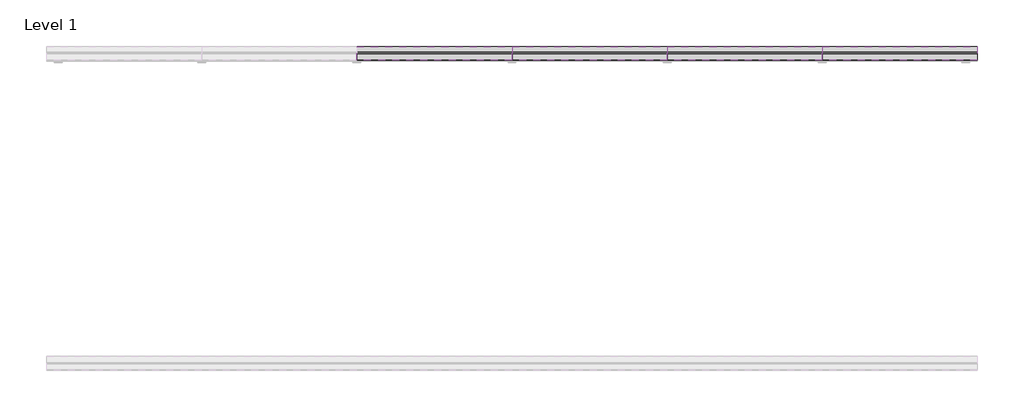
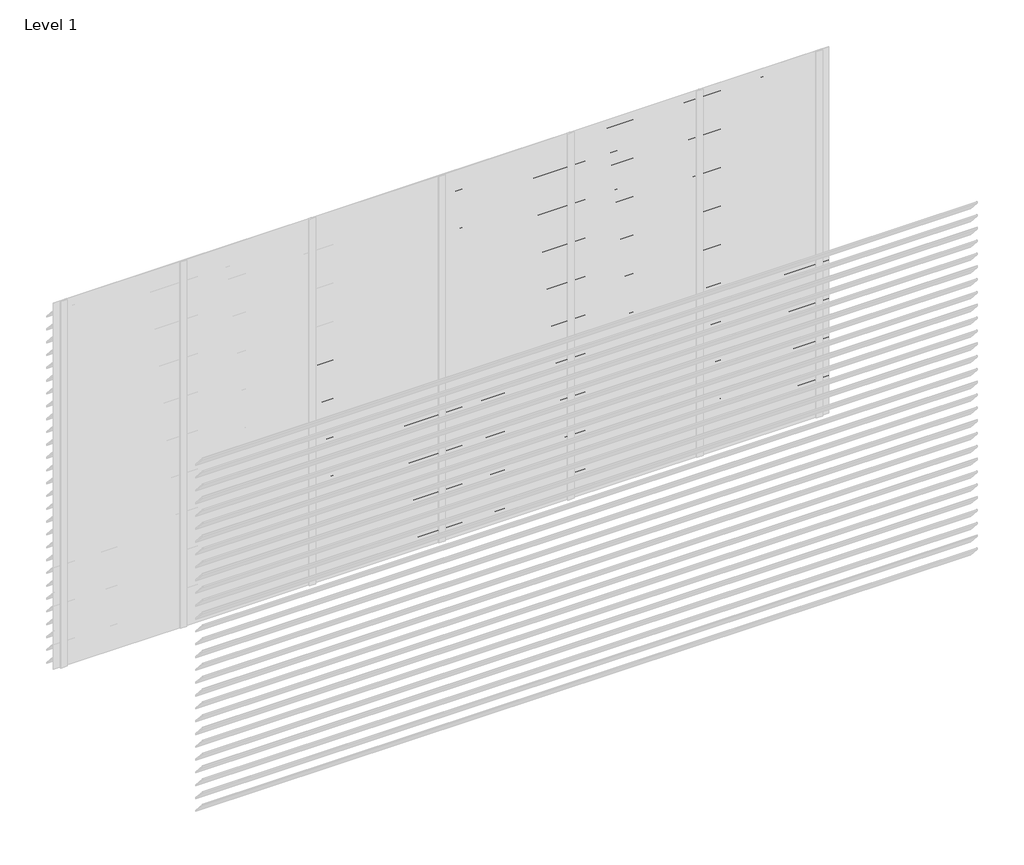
# One storey, part 9 of 9: 101 proxies.
"""IFC4 building model written with IfcOpenShell, lengths in millimetres."""

from ifc_helpers import new_model, si_unit, frame, origin, place, context, project, spatial, polyline, outline, extrude, element, save

model = new_model("IFC4")

# Units and contexts
model_context = context("Model", 3, world=origin())
ifc_project = project(units=[si_unit("LENGTHUNIT", "METRE", prefix="MILLI")], contexts=[model_context])

# Site, building, storey
site = spatial("IfcSite", under=ifc_project)
building = spatial("IfcBuilding", under=site)
storey = spatial("IfcBuildingStorey", under=building, Name="Level 1", Elevation=0.0)

# Proxies
placement = place(None, origin())
element("IfcBuildingElementProxy", 1, Name="Wall Sweeps", at=placement, inside=storey, context=model_context, shape_type="SweptSolid", body=[
    extrude(outline(polyline([(5.0, 1785.0), (5.0, 1780.6232888), (92.0, 1684.0), (92.0, 1674.0), (3.0, 1772.8445138), (3.0, 1785.0), (5.0, 1785.0)])), frame((2000.0, 0.0, 0.0), z_axis=(1.0, 0.0, 0.0), x_axis=(0.0, 1.0, 0.0)), (0.0, 0.0, 1.0), 1000.0),
])
element("IfcBuildingElementProxy", 2, Name="Wall Sweeps", at=placement, inside=storey, context=model_context, shape_type="SweptSolid", body=[
    extrude(outline(polyline([(5.0, 1680.0), (5.0, 1675.6232888), (92.0, 1579.0), (92.0, 1569.0), (3.0, 1667.8445138), (3.0, 1680.0), (5.0, 1680.0)])), frame((2000.0, 0.0, 0.0), z_axis=(1.0, 0.0, 0.0), x_axis=(0.0, 1.0, 0.0)), (0.0, 0.0, 1.0), 1000.0),
])
element("IfcBuildingElementProxy", 3, Name="Wall Sweeps", at=placement, inside=storey, context=model_context, shape_type="SweptSolid", body=[
    extrude(outline(polyline([(5.0, 1575.0), (5.0, 1570.6232888), (92.0, 1474.0), (92.0, 1464.0), (3.0, 1562.8445138), (3.0, 1575.0), (5.0, 1575.0)])), frame((2000.0, 0.0, 0.0), z_axis=(1.0, 0.0, 0.0), x_axis=(0.0, 1.0, 0.0)), (0.0, 0.0, 1.0), 1000.0),
])
element("IfcBuildingElementProxy", 4, Name="Wall Sweeps", at=placement, inside=storey, context=model_context, shape_type="SweptSolid", body=[
    extrude(outline(polyline([(5.0, 1470.0), (5.0, 1465.6232888), (92.0, 1369.0), (92.0, 1359.0), (3.0, 1457.8445138), (3.0, 1470.0), (5.0, 1470.0)])), frame((2000.0, 0.0, 0.0), z_axis=(1.0, 0.0, 0.0), x_axis=(0.0, 1.0, 0.0)), (0.0, 0.0, 1.0), 1000.0),
])
element("IfcBuildingElementProxy", 5, Name="Wall Sweeps", at=placement, inside=storey, context=model_context, shape_type="SweptSolid", body=[
    extrude(outline(polyline([(5.0, 1365.0), (5.0, 1360.6232888), (92.0, 1264.0), (92.0, 1254.0), (3.0, 1352.8445138), (3.0, 1365.0), (5.0, 1365.0)])), frame((2000.0, 0.0, 0.0), z_axis=(1.0, 0.0, 0.0), x_axis=(0.0, 1.0, 0.0)), (0.0, 0.0, 1.0), 1000.0),
])
element("IfcBuildingElementProxy", 6, Name="Wall Sweeps", at=placement, inside=storey, context=model_context, shape_type="SweptSolid", body=[
    extrude(outline(polyline([(5.0, 1260.0), (5.0, 1255.6232888), (92.0, 1159.0), (92.0, 1149.0), (3.0, 1247.8445138), (3.0, 1260.0), (5.0, 1260.0)])), frame((2000.0, 0.0, 0.0), z_axis=(1.0, 0.0, 0.0), x_axis=(0.0, 1.0, 0.0)), (0.0, 0.0, 1.0), 1000.0),
])
element("IfcBuildingElementProxy", 7, Name="Wall Sweeps", at=placement, inside=storey, context=model_context, shape_type="SweptSolid", body=[
    extrude(outline(polyline([(5.0, 1155.0), (5.0, 1150.6232888), (92.0, 1054.0), (92.0, 1044.0), (3.0, 1142.8445138), (3.0, 1155.0), (5.0, 1155.0)])), frame((2000.0, 0.0, 0.0), z_axis=(1.0, 0.0, 0.0), x_axis=(0.0, 1.0, 0.0)), (0.0, 0.0, 1.0), 1000.0),
])
element("IfcBuildingElementProxy", 8, Name="Wall Sweeps", at=placement, inside=storey, context=model_context, shape_type="SweptSolid", body=[
    extrude(outline(polyline([(5.0, 1050.0), (5.0, 1045.6232888), (92.0, 949.0), (92.0, 939.0), (3.0, 1037.8445138), (3.0, 1050.0), (5.0, 1050.0)])), frame((2000.0, 0.0, 0.0), z_axis=(1.0, 0.0, 0.0), x_axis=(0.0, 1.0, 0.0)), (0.0, 0.0, 1.0), 1000.0),
])
element("IfcBuildingElementProxy", 9, Name="Wall Sweeps", at=placement, inside=storey, context=model_context, shape_type="SweptSolid", body=[
    extrude(outline(polyline([(5.0, 945.0), (5.0, 940.6232888), (92.0, 844.0), (92.0, 834.0), (3.0, 932.8445138), (3.0, 945.0), (5.0, 945.0)])), frame((2000.0, 0.0, 0.0), z_axis=(1.0, 0.0, 0.0), x_axis=(0.0, 1.0, 0.0)), (0.0, 0.0, 1.0), 1000.0),
])
element("IfcBuildingElementProxy", 10, Name="Wall Sweeps", at=placement, inside=storey, context=model_context, shape_type="SweptSolid", body=[
    extrude(outline(polyline([(5.0, 840.0), (5.0, 835.6232888), (92.0, 739.0), (92.0, 729.0), (3.0, 827.8445138), (3.0, 840.0), (5.0, 840.0)])), frame((2000.0, 0.0, 0.0), z_axis=(1.0, 0.0, 0.0), x_axis=(0.0, 1.0, 0.0)), (0.0, 0.0, 1.0), 1000.0),
])
element("IfcBuildingElementProxy", 11, Name="Wall Sweeps", at=placement, inside=storey, context=model_context, shape_type="SweptSolid", body=[
    extrude(outline(polyline([(5.0, 735.0), (5.0, 730.6232888), (92.0, 634.0), (92.0, 624.0), (3.0, 722.8445138), (3.0, 735.0), (5.0, 735.0)])), frame((2000.0, 0.0, 0.0), z_axis=(1.0, 0.0, 0.0), x_axis=(0.0, 1.0, 0.0)), (0.0, 0.0, 1.0), 1000.0),
])
element("IfcBuildingElementProxy", 12, Name="Wall Sweeps", at=placement, inside=storey, context=model_context, shape_type="SweptSolid", body=[
    extrude(outline(polyline([(5.0, 630.0), (5.0, 625.6232888), (92.0, 529.0), (92.0, 519.0), (3.0, 617.8445138), (3.0, 630.0), (5.0, 630.0)])), frame((2000.0, 0.0, 0.0), z_axis=(1.0, 0.0, 0.0), x_axis=(0.0, 1.0, 0.0)), (0.0, 0.0, 1.0), 1000.0),
])
element("IfcBuildingElementProxy", 13, Name="Wall Sweeps", at=placement, inside=storey, context=model_context, shape_type="SweptSolid", body=[
    extrude(outline(polyline([(5.0, 525.0), (5.0, 520.6232888), (92.0, 424.0), (92.0, 414.0), (3.0, 512.8445138), (3.0, 525.0), (5.0, 525.0)])), frame((2000.0, 0.0, 0.0), z_axis=(1.0, 0.0, 0.0), x_axis=(0.0, 1.0, 0.0)), (0.0, 0.0, 1.0), 1000.0),
])
element("IfcBuildingElementProxy", 14, Name="Wall Sweeps", at=placement, inside=storey, context=model_context, shape_type="SweptSolid", body=[
    extrude(outline(polyline([(5.0, 420.0), (5.0, 415.6232888), (92.0, 319.0), (92.0, 309.0), (3.0, 407.8445138), (3.0, 420.0), (5.0, 420.0)])), frame((2000.0, 0.0, 0.0), z_axis=(1.0, 0.0, 0.0), x_axis=(0.0, 1.0, 0.0)), (0.0, 0.0, 1.0), 1000.0),
])
element("IfcBuildingElementProxy", 15, Name="Wall Sweeps", at=placement, inside=storey, context=model_context, shape_type="SweptSolid", body=[
    extrude(outline(polyline([(5.0, 315.0), (5.0, 310.6232888), (92.0, 214.0), (92.0, 204.0), (3.0, 302.8445138), (3.0, 315.0), (5.0, 315.0)])), frame((2000.0, 0.0, 0.0), z_axis=(1.0, 0.0, 0.0), x_axis=(0.0, 1.0, 0.0)), (0.0, 0.0, 1.0), 1000.0),
])
element("IfcBuildingElementProxy", 16, Name="Wall Sweeps", at=placement, inside=storey, context=model_context, shape_type="SweptSolid", body=[
    extrude(outline(polyline([(5.0, 210.0), (5.0, 205.6232888), (92.0, 109.0), (92.0, 99.0), (3.0, 197.8445138), (3.0, 210.0), (5.0, 210.0)])), frame((2000.0, 0.0, 0.0), z_axis=(1.0, 0.0, 0.0), x_axis=(0.0, 1.0, 0.0)), (0.0, 0.0, 1.0), 1000.0),
])
element("IfcBuildingElementProxy", 17, Name="Wall Sweeps", at=placement, inside=storey, context=model_context, shape_type="SweptSolid", body=[
    extrude(outline(polyline([(5.0, 105.0), (5.0, 100.6232888), (92.0, 4.0), (92.0, -6.0), (3.0, 92.8445138), (3.0, 105.0), (5.0, 105.0)])), frame((2000.0, 0.0, 0.0), z_axis=(1.0, 0.0, 0.0), x_axis=(0.0, 1.0, 0.0)), (0.0, 0.0, 1.0), 1000.0),
])
element("IfcBuildingElementProxy", 18, Name="Wall Sweeps", at=placement, inside=storey, context=model_context, shape_type="SweptSolid", body=[
    extrude(outline(polyline([(5.0, 2940.0), (5.0, 2935.6232888), (92.0, 2839.0), (92.0, 2829.0), (3.0, 2927.8445138), (3.0, 2940.0), (5.0, 2940.0)])), frame((3000.0, 0.0, 0.0), z_axis=(1.0, 0.0, 0.0), x_axis=(0.0, 1.0, 0.0)), (0.0, 0.0, 1.0), 1000.0),
])
element("IfcBuildingElementProxy", 19, Name="Wall Sweeps", at=placement, inside=storey, context=model_context, shape_type="SweptSolid", body=[
    extrude(outline(polyline([(5.0, 2835.0), (5.0, 2830.6232888), (92.0, 2734.0), (92.0, 2724.0), (3.0, 2822.8445138), (3.0, 2835.0), (5.0, 2835.0)])), frame((3000.0, 0.0, 0.0), z_axis=(1.0, 0.0, 0.0), x_axis=(0.0, 1.0, 0.0)), (0.0, 0.0, 1.0), 1000.0),
])
element("IfcBuildingElementProxy", 20, Name="Wall Sweeps", at=placement, inside=storey, context=model_context, shape_type="SweptSolid", body=[
    extrude(outline(polyline([(5.0, 2730.0), (5.0, 2725.6232888), (92.0, 2629.0), (92.0, 2619.0), (3.0, 2717.8445138), (3.0, 2730.0), (5.0, 2730.0)])), frame((3000.0, 0.0, 0.0), z_axis=(1.0, 0.0, 0.0), x_axis=(0.0, 1.0, 0.0)), (0.0, 0.0, 1.0), 1000.0),
])
element("IfcBuildingElementProxy", 21, Name="Wall Sweeps", at=placement, inside=storey, context=model_context, shape_type="SweptSolid", body=[
    extrude(outline(polyline([(5.0, 2625.0), (5.0, 2620.6232888), (92.0, 2524.0), (92.0, 2514.0), (3.0, 2612.8445138), (3.0, 2625.0), (5.0, 2625.0)])), frame((3000.0, 0.0, 0.0), z_axis=(1.0, 0.0, 0.0), x_axis=(0.0, 1.0, 0.0)), (0.0, 0.0, 1.0), 1000.0),
])
element("IfcBuildingElementProxy", 22, Name="Wall Sweeps", at=placement, inside=storey, context=model_context, shape_type="SweptSolid", body=[
    extrude(outline(polyline([(5.0, 2520.0), (5.0, 2515.6232888), (92.0, 2419.0), (92.0, 2409.0), (3.0, 2507.8445138), (3.0, 2520.0), (5.0, 2520.0)])), frame((3000.0, 0.0, 0.0), z_axis=(1.0, 0.0, 0.0), x_axis=(0.0, 1.0, 0.0)), (0.0, 0.0, 1.0), 1000.0),
])
element("IfcBuildingElementProxy", 23, Name="Wall Sweeps", at=placement, inside=storey, context=model_context, shape_type="SweptSolid", body=[
    extrude(outline(polyline([(5.0, 2415.0), (5.0, 2410.6232888), (92.0, 2314.0), (92.0, 2304.0), (3.0, 2402.8445138), (3.0, 2415.0), (5.0, 2415.0)])), frame((3000.0, 0.0, 0.0), z_axis=(1.0, 0.0, 0.0), x_axis=(0.0, 1.0, 0.0)), (0.0, 0.0, 1.0), 1000.0),
])
element("IfcBuildingElementProxy", 24, Name="Wall Sweeps", at=placement, inside=storey, context=model_context, shape_type="SweptSolid", body=[
    extrude(outline(polyline([(5.0, 2310.0), (5.0, 2305.6232888), (92.0, 2209.0), (92.0, 2199.0), (3.0, 2297.8445138), (3.0, 2310.0), (5.0, 2310.0)])), frame((3000.0, 0.0, 0.0), z_axis=(1.0, 0.0, 0.0), x_axis=(0.0, 1.0, 0.0)), (0.0, 0.0, 1.0), 1000.0),
])
element("IfcBuildingElementProxy", 25, Name="Wall Sweeps", at=placement, inside=storey, context=model_context, shape_type="SweptSolid", body=[
    extrude(outline(polyline([(5.0, 2205.0), (5.0, 2200.6232888), (92.0, 2104.0), (92.0, 2094.0), (3.0, 2192.8445138), (3.0, 2205.0), (5.0, 2205.0)])), frame((3000.0, 0.0, 0.0), z_axis=(1.0, 0.0, 0.0), x_axis=(0.0, 1.0, 0.0)), (0.0, 0.0, 1.0), 1000.0),
])
element("IfcBuildingElementProxy", 26, Name="Wall Sweeps", at=placement, inside=storey, context=model_context, shape_type="SweptSolid", body=[
    extrude(outline(polyline([(5.0, 2100.0), (5.0, 2095.6232888), (92.0, 1999.0), (92.0, 1989.0), (3.0, 2087.8445138), (3.0, 2100.0), (5.0, 2100.0)])), frame((3000.0, 0.0, 0.0), z_axis=(1.0, 0.0, 0.0), x_axis=(0.0, 1.0, 0.0)), (0.0, 0.0, 1.0), 1000.0),
])
element("IfcBuildingElementProxy", 27, Name="Wall Sweeps", at=placement, inside=storey, context=model_context, shape_type="SweptSolid", body=[
    extrude(outline(polyline([(5.0, 1995.0), (5.0, 1990.6232888), (92.0, 1894.0), (92.0, 1884.0), (3.0, 1982.8445138), (3.0, 1995.0), (5.0, 1995.0)])), frame((3000.0, 0.0, 0.0), z_axis=(1.0, 0.0, 0.0), x_axis=(0.0, 1.0, 0.0)), (0.0, 0.0, 1.0), 1000.0),
])
element("IfcBuildingElementProxy", 28, Name="Wall Sweeps", at=placement, inside=storey, context=model_context, shape_type="SweptSolid", body=[
    extrude(outline(polyline([(5.0, 1890.0), (5.0, 1885.6232888), (92.0, 1789.0), (92.0, 1779.0), (3.0, 1877.8445138), (3.0, 1890.0), (5.0, 1890.0)])), frame((3000.0, 0.0, 0.0), z_axis=(1.0, 0.0, 0.0), x_axis=(0.0, 1.0, 0.0)), (0.0, 0.0, 1.0), 1000.0),
])
element("IfcBuildingElementProxy", 29, Name="Wall Sweeps", at=placement, inside=storey, context=model_context, shape_type="SweptSolid", body=[
    extrude(outline(polyline([(5.0, 1785.0), (5.0, 1780.6232888), (92.0, 1684.0), (92.0, 1674.0), (3.0, 1772.8445138), (3.0, 1785.0), (5.0, 1785.0)])), frame((3000.0, 0.0, 0.0), z_axis=(1.0, 0.0, 0.0), x_axis=(0.0, 1.0, 0.0)), (0.0, 0.0, 1.0), 1000.0),
])
element("IfcBuildingElementProxy", 30, Name="Wall Sweeps", at=placement, inside=storey, context=model_context, shape_type="SweptSolid", body=[
    extrude(outline(polyline([(5.0, 1680.0), (5.0, 1675.6232888), (92.0, 1579.0), (92.0, 1569.0), (3.0, 1667.8445138), (3.0, 1680.0), (5.0, 1680.0)])), frame((3000.0, 0.0, 0.0), z_axis=(1.0, 0.0, 0.0), x_axis=(0.0, 1.0, 0.0)), (0.0, 0.0, 1.0), 1000.0),
])
element("IfcBuildingElementProxy", 31, Name="Wall Sweeps", at=placement, inside=storey, context=model_context, shape_type="SweptSolid", body=[
    extrude(outline(polyline([(5.0, 1575.0), (5.0, 1570.6232888), (92.0, 1474.0), (92.0, 1464.0), (3.0, 1562.8445138), (3.0, 1575.0), (5.0, 1575.0)])), frame((3000.0, 0.0, 0.0), z_axis=(1.0, 0.0, 0.0), x_axis=(0.0, 1.0, 0.0)), (0.0, 0.0, 1.0), 1000.0),
])
element("IfcBuildingElementProxy", 32, Name="Wall Sweeps", at=placement, inside=storey, context=model_context, shape_type="SweptSolid", body=[
    extrude(outline(polyline([(5.0, 1470.0), (5.0, 1465.6232888), (92.0, 1369.0), (92.0, 1359.0), (3.0, 1457.8445138), (3.0, 1470.0), (5.0, 1470.0)])), frame((3000.0, 0.0, 0.0), z_axis=(1.0, 0.0, 0.0), x_axis=(0.0, 1.0, 0.0)), (0.0, 0.0, 1.0), 1000.0),
])
element("IfcBuildingElementProxy", 33, Name="Wall Sweeps", at=placement, inside=storey, context=model_context, shape_type="SweptSolid", body=[
    extrude(outline(polyline([(5.0, 1365.0), (5.0, 1360.6232888), (92.0, 1264.0), (92.0, 1254.0), (3.0, 1352.8445138), (3.0, 1365.0), (5.0, 1365.0)])), frame((3000.0, 0.0, 0.0), z_axis=(1.0, 0.0, 0.0), x_axis=(0.0, 1.0, 0.0)), (0.0, 0.0, 1.0), 1000.0),
])
element("IfcBuildingElementProxy", 34, Name="Wall Sweeps", at=placement, inside=storey, context=model_context, shape_type="SweptSolid", body=[
    extrude(outline(polyline([(5.0, 1260.0), (5.0, 1255.6232888), (92.0, 1159.0), (92.0, 1149.0), (3.0, 1247.8445138), (3.0, 1260.0), (5.0, 1260.0)])), frame((3000.0, 0.0, 0.0), z_axis=(1.0, 0.0, 0.0), x_axis=(0.0, 1.0, 0.0)), (0.0, 0.0, 1.0), 1000.0),
])
element("IfcBuildingElementProxy", 35, Name="Wall Sweeps", at=placement, inside=storey, context=model_context, shape_type="SweptSolid", body=[
    extrude(outline(polyline([(5.0, 1155.0), (5.0, 1150.6232888), (92.0, 1054.0), (92.0, 1044.0), (3.0, 1142.8445138), (3.0, 1155.0), (5.0, 1155.0)])), frame((3000.0, 0.0, 0.0), z_axis=(1.0, 0.0, 0.0), x_axis=(0.0, 1.0, 0.0)), (0.0, 0.0, 1.0), 1000.0),
])
element("IfcBuildingElementProxy", 36, Name="Wall Sweeps", at=placement, inside=storey, context=model_context, shape_type="SweptSolid", body=[
    extrude(outline(polyline([(5.0, 1050.0), (5.0, 1045.6232888), (92.0, 949.0), (92.0, 939.0), (3.0, 1037.8445138), (3.0, 1050.0), (5.0, 1050.0)])), frame((3000.0, 0.0, 0.0), z_axis=(1.0, 0.0, 0.0), x_axis=(0.0, 1.0, 0.0)), (0.0, 0.0, 1.0), 1000.0),
])
element("IfcBuildingElementProxy", 37, Name="Wall Sweeps", at=placement, inside=storey, context=model_context, shape_type="SweptSolid", body=[
    extrude(outline(polyline([(5.0, 945.0), (5.0, 940.6232888), (92.0, 844.0), (92.0, 834.0), (3.0, 932.8445138), (3.0, 945.0), (5.0, 945.0)])), frame((3000.0, 0.0, 0.0), z_axis=(1.0, 0.0, 0.0), x_axis=(0.0, 1.0, 0.0)), (0.0, 0.0, 1.0), 1000.0),
])
element("IfcBuildingElementProxy", 38, Name="Wall Sweeps", at=placement, inside=storey, context=model_context, shape_type="SweptSolid", body=[
    extrude(outline(polyline([(5.0, 840.0), (5.0, 835.6232888), (92.0, 739.0), (92.0, 729.0), (3.0, 827.8445138), (3.0, 840.0), (5.0, 840.0)])), frame((3000.0, 0.0, 0.0), z_axis=(1.0, 0.0, 0.0), x_axis=(0.0, 1.0, 0.0)), (0.0, 0.0, 1.0), 1000.0),
])
element("IfcBuildingElementProxy", 39, Name="Wall Sweeps", at=placement, inside=storey, context=model_context, shape_type="SweptSolid", body=[
    extrude(outline(polyline([(5.0, 735.0), (5.0, 730.6232888), (92.0, 634.0), (92.0, 624.0), (3.0, 722.8445138), (3.0, 735.0), (5.0, 735.0)])), frame((3000.0, 0.0, 0.0), z_axis=(1.0, 0.0, 0.0), x_axis=(0.0, 1.0, 0.0)), (0.0, 0.0, 1.0), 1000.0),
])
element("IfcBuildingElementProxy", 40, Name="Wall Sweeps", at=placement, inside=storey, context=model_context, shape_type="SweptSolid", body=[
    extrude(outline(polyline([(5.0, 630.0), (5.0, 625.6232888), (92.0, 529.0), (92.0, 519.0), (3.0, 617.8445138), (3.0, 630.0), (5.0, 630.0)])), frame((3000.0, 0.0, 0.0), z_axis=(1.0, 0.0, 0.0), x_axis=(0.0, 1.0, 0.0)), (0.0, 0.0, 1.0), 1000.0),
])
element("IfcBuildingElementProxy", 41, Name="Wall Sweeps", at=placement, inside=storey, context=model_context, shape_type="SweptSolid", body=[
    extrude(outline(polyline([(5.0, 525.0), (5.0, 520.6232888), (92.0, 424.0), (92.0, 414.0), (3.0, 512.8445138), (3.0, 525.0), (5.0, 525.0)])), frame((3000.0, 0.0, 0.0), z_axis=(1.0, 0.0, 0.0), x_axis=(0.0, 1.0, 0.0)), (0.0, 0.0, 1.0), 1000.0),
])
element("IfcBuildingElementProxy", 42, Name="Wall Sweeps", at=placement, inside=storey, context=model_context, shape_type="SweptSolid", body=[
    extrude(outline(polyline([(5.0, 420.0), (5.0, 415.6232888), (92.0, 319.0), (92.0, 309.0), (3.0, 407.8445138), (3.0, 420.0), (5.0, 420.0)])), frame((3000.0, 0.0, 0.0), z_axis=(1.0, 0.0, 0.0), x_axis=(0.0, 1.0, 0.0)), (0.0, 0.0, 1.0), 1000.0),
])
element("IfcBuildingElementProxy", 43, Name="Wall Sweeps", at=placement, inside=storey, context=model_context, shape_type="SweptSolid", body=[
    extrude(outline(polyline([(5.0, 315.0), (5.0, 310.6232888), (92.0, 214.0), (92.0, 204.0), (3.0, 302.8445138), (3.0, 315.0), (5.0, 315.0)])), frame((3000.0, 0.0, 0.0), z_axis=(1.0, 0.0, 0.0), x_axis=(0.0, 1.0, 0.0)), (0.0, 0.0, 1.0), 1000.0),
])
element("IfcBuildingElementProxy", 44, Name="Wall Sweeps", at=placement, inside=storey, context=model_context, shape_type="SweptSolid", body=[
    extrude(outline(polyline([(5.0, 210.0), (5.0, 205.6232888), (92.0, 109.0), (92.0, 99.0), (3.0, 197.8445138), (3.0, 210.0), (5.0, 210.0)])), frame((3000.0, 0.0, 0.0), z_axis=(1.0, 0.0, 0.0), x_axis=(0.0, 1.0, 0.0)), (0.0, 0.0, 1.0), 1000.0),
])
element("IfcBuildingElementProxy", 45, Name="Wall Sweeps", at=placement, inside=storey, context=model_context, shape_type="SweptSolid", body=[
    extrude(outline(polyline([(5.0, 105.0), (5.0, 100.6232888), (92.0, 4.0), (92.0, -6.0), (3.0, 92.8445138), (3.0, 105.0), (5.0, 105.0)])), frame((3000.0, 0.0, 0.0), z_axis=(1.0, 0.0, 0.0), x_axis=(0.0, 1.0, 0.0)), (0.0, 0.0, 1.0), 1000.0),
])
element("IfcBuildingElementProxy", 46, Name="Wall Sweeps", at=placement, inside=storey, context=model_context, shape_type="SweptSolid", body=[
    extrude(outline(polyline([(5.0, 2940.0), (5.0, 2935.6232888), (92.0, 2839.0), (92.0, 2829.0), (3.0, 2927.8445138), (3.0, 2940.0), (5.0, 2940.0)])), frame((4000.0, 0.0, 0.0), z_axis=(1.0, 0.0, 0.0), x_axis=(0.0, 1.0, 0.0)), (0.0, 0.0, 1.0), 1000.0),
])
element("IfcBuildingElementProxy", 47, Name="Wall Sweeps", at=placement, inside=storey, context=model_context, shape_type="SweptSolid", body=[
    extrude(outline(polyline([(5.0, 2835.0), (5.0, 2830.6232888), (92.0, 2734.0), (92.0, 2724.0), (3.0, 2822.8445138), (3.0, 2835.0), (5.0, 2835.0)])), frame((4000.0, 0.0, 0.0), z_axis=(1.0, 0.0, 0.0), x_axis=(0.0, 1.0, 0.0)), (0.0, 0.0, 1.0), 1000.0),
])
element("IfcBuildingElementProxy", 48, Name="Wall Sweeps", at=placement, inside=storey, context=model_context, shape_type="SweptSolid", body=[
    extrude(outline(polyline([(5.0, 2730.0), (5.0, 2725.6232888), (92.0, 2629.0), (92.0, 2619.0), (3.0, 2717.8445138), (3.0, 2730.0), (5.0, 2730.0)])), frame((4000.0, 0.0, 0.0), z_axis=(1.0, 0.0, 0.0), x_axis=(0.0, 1.0, 0.0)), (0.0, 0.0, 1.0), 1000.0),
])
element("IfcBuildingElementProxy", 49, Name="Wall Sweeps", at=placement, inside=storey, context=model_context, shape_type="SweptSolid", body=[
    extrude(outline(polyline([(5.0, 2625.0), (5.0, 2620.6232888), (92.0, 2524.0), (92.0, 2514.0), (3.0, 2612.8445138), (3.0, 2625.0), (5.0, 2625.0)])), frame((4000.0, 0.0, 0.0), z_axis=(1.0, 0.0, 0.0), x_axis=(0.0, 1.0, 0.0)), (0.0, 0.0, 1.0), 1000.0),
])
element("IfcBuildingElementProxy", 50, Name="Wall Sweeps", at=placement, inside=storey, context=model_context, shape_type="SweptSolid", body=[
    extrude(outline(polyline([(5.0, 2520.0), (5.0, 2515.6232888), (92.0, 2419.0), (92.0, 2409.0), (3.0, 2507.8445138), (3.0, 2520.0), (5.0, 2520.0)])), frame((4000.0, 0.0, 0.0), z_axis=(1.0, 0.0, 0.0), x_axis=(0.0, 1.0, 0.0)), (0.0, 0.0, 1.0), 1000.0),
])
element("IfcBuildingElementProxy", 51, Name="Wall Sweeps", at=placement, inside=storey, context=model_context, shape_type="SweptSolid", body=[
    extrude(outline(polyline([(5.0, 2415.0), (5.0, 2410.6232888), (92.0, 2314.0), (92.0, 2304.0), (3.0, 2402.8445138), (3.0, 2415.0), (5.0, 2415.0)])), frame((4000.0, 0.0, 0.0), z_axis=(1.0, 0.0, 0.0), x_axis=(0.0, 1.0, 0.0)), (0.0, 0.0, 1.0), 1000.0),
])
element("IfcBuildingElementProxy", 52, Name="Wall Sweeps", at=placement, inside=storey, context=model_context, shape_type="SweptSolid", body=[
    extrude(outline(polyline([(5.0, 2310.0), (5.0, 2305.6232888), (92.0, 2209.0), (92.0, 2199.0), (3.0, 2297.8445138), (3.0, 2310.0), (5.0, 2310.0)])), frame((4000.0, 0.0, 0.0), z_axis=(1.0, 0.0, 0.0), x_axis=(0.0, 1.0, 0.0)), (0.0, 0.0, 1.0), 1000.0),
])
element("IfcBuildingElementProxy", 53, Name="Wall Sweeps", at=placement, inside=storey, context=model_context, shape_type="SweptSolid", body=[
    extrude(outline(polyline([(5.0, 2205.0), (5.0, 2200.6232888), (92.0, 2104.0), (92.0, 2094.0), (3.0, 2192.8445138), (3.0, 2205.0), (5.0, 2205.0)])), frame((4000.0, 0.0, 0.0), z_axis=(1.0, 0.0, 0.0), x_axis=(0.0, 1.0, 0.0)), (0.0, 0.0, 1.0), 1000.0),
])
element("IfcBuildingElementProxy", 54, Name="Wall Sweeps", at=placement, inside=storey, context=model_context, shape_type="SweptSolid", body=[
    extrude(outline(polyline([(5.0, 2100.0), (5.0, 2095.6232888), (92.0, 1999.0), (92.0, 1989.0), (3.0, 2087.8445138), (3.0, 2100.0), (5.0, 2100.0)])), frame((4000.0, 0.0, 0.0), z_axis=(1.0, 0.0, 0.0), x_axis=(0.0, 1.0, 0.0)), (0.0, 0.0, 1.0), 1000.0),
])
element("IfcBuildingElementProxy", 55, Name="Wall Sweeps", at=placement, inside=storey, context=model_context, shape_type="SweptSolid", body=[
    extrude(outline(polyline([(5.0, 1995.0), (5.0, 1990.6232888), (92.0, 1894.0), (92.0, 1884.0), (3.0, 1982.8445138), (3.0, 1995.0), (5.0, 1995.0)])), frame((4000.0, 0.0, 0.0), z_axis=(1.0, 0.0, 0.0), x_axis=(0.0, 1.0, 0.0)), (0.0, 0.0, 1.0), 1000.0),
])
element("IfcBuildingElementProxy", 56, Name="Wall Sweeps", at=placement, inside=storey, context=model_context, shape_type="SweptSolid", body=[
    extrude(outline(polyline([(5.0, 1890.0), (5.0, 1885.6232888), (92.0, 1789.0), (92.0, 1779.0), (3.0, 1877.8445138), (3.0, 1890.0), (5.0, 1890.0)])), frame((4000.0, 0.0, 0.0), z_axis=(1.0, 0.0, 0.0), x_axis=(0.0, 1.0, 0.0)), (0.0, 0.0, 1.0), 1000.0),
])
element("IfcBuildingElementProxy", 57, Name="Wall Sweeps", at=placement, inside=storey, context=model_context, shape_type="SweptSolid", body=[
    extrude(outline(polyline([(5.0, 1785.0), (5.0, 1780.6232888), (92.0, 1684.0), (92.0, 1674.0), (3.0, 1772.8445138), (3.0, 1785.0), (5.0, 1785.0)])), frame((4000.0, 0.0, 0.0), z_axis=(1.0, 0.0, 0.0), x_axis=(0.0, 1.0, 0.0)), (0.0, 0.0, 1.0), 1000.0),
])
element("IfcBuildingElementProxy", 58, Name="Wall Sweeps", at=placement, inside=storey, context=model_context, shape_type="SweptSolid", body=[
    extrude(outline(polyline([(5.0, 1680.0), (5.0, 1675.6232888), (92.0, 1579.0), (92.0, 1569.0), (3.0, 1667.8445138), (3.0, 1680.0), (5.0, 1680.0)])), frame((4000.0, 0.0, 0.0), z_axis=(1.0, 0.0, 0.0), x_axis=(0.0, 1.0, 0.0)), (0.0, 0.0, 1.0), 1000.0),
])
element("IfcBuildingElementProxy", 59, Name="Wall Sweeps", at=placement, inside=storey, context=model_context, shape_type="SweptSolid", body=[
    extrude(outline(polyline([(5.0, 1575.0), (5.0, 1570.6232888), (92.0, 1474.0), (92.0, 1464.0), (3.0, 1562.8445138), (3.0, 1575.0), (5.0, 1575.0)])), frame((4000.0, 0.0, 0.0), z_axis=(1.0, 0.0, 0.0), x_axis=(0.0, 1.0, 0.0)), (0.0, 0.0, 1.0), 1000.0),
])
element("IfcBuildingElementProxy", 60, Name="Wall Sweeps", at=placement, inside=storey, context=model_context, shape_type="SweptSolid", body=[
    extrude(outline(polyline([(5.0, 1470.0), (5.0, 1465.6232888), (92.0, 1369.0), (92.0, 1359.0), (3.0, 1457.8445138), (3.0, 1470.0), (5.0, 1470.0)])), frame((4000.0, 0.0, 0.0), z_axis=(1.0, 0.0, 0.0), x_axis=(0.0, 1.0, 0.0)), (0.0, 0.0, 1.0), 1000.0),
])
element("IfcBuildingElementProxy", 61, Name="Wall Sweeps", at=placement, inside=storey, context=model_context, shape_type="SweptSolid", body=[
    extrude(outline(polyline([(5.0, 1365.0), (5.0, 1360.6232888), (92.0, 1264.0), (92.0, 1254.0), (3.0, 1352.8445138), (3.0, 1365.0), (5.0, 1365.0)])), frame((4000.0, 0.0, 0.0), z_axis=(1.0, 0.0, 0.0), x_axis=(0.0, 1.0, 0.0)), (0.0, 0.0, 1.0), 1000.0),
])
element("IfcBuildingElementProxy", 62, Name="Wall Sweeps", at=placement, inside=storey, context=model_context, shape_type="SweptSolid", body=[
    extrude(outline(polyline([(5.0, 1260.0), (5.0, 1255.6232888), (92.0, 1159.0), (92.0, 1149.0), (3.0, 1247.8445138), (3.0, 1260.0), (5.0, 1260.0)])), frame((4000.0, 0.0, 0.0), z_axis=(1.0, 0.0, 0.0), x_axis=(0.0, 1.0, 0.0)), (0.0, 0.0, 1.0), 1000.0),
])
element("IfcBuildingElementProxy", 63, Name="Wall Sweeps", at=placement, inside=storey, context=model_context, shape_type="SweptSolid", body=[
    extrude(outline(polyline([(5.0, 1155.0), (5.0, 1150.6232888), (92.0, 1054.0), (92.0, 1044.0), (3.0, 1142.8445138), (3.0, 1155.0), (5.0, 1155.0)])), frame((4000.0, 0.0, 0.0), z_axis=(1.0, 0.0, 0.0), x_axis=(0.0, 1.0, 0.0)), (0.0, 0.0, 1.0), 1000.0),
])
element("IfcBuildingElementProxy", 64, Name="Wall Sweeps", at=placement, inside=storey, context=model_context, shape_type="SweptSolid", body=[
    extrude(outline(polyline([(5.0, 1050.0), (5.0, 1045.6232888), (92.0, 949.0), (92.0, 939.0), (3.0, 1037.8445138), (3.0, 1050.0), (5.0, 1050.0)])), frame((4000.0, 0.0, 0.0), z_axis=(1.0, 0.0, 0.0), x_axis=(0.0, 1.0, 0.0)), (0.0, 0.0, 1.0), 1000.0),
])
element("IfcBuildingElementProxy", 65, Name="Wall Sweeps", at=placement, inside=storey, context=model_context, shape_type="SweptSolid", body=[
    extrude(outline(polyline([(5.0, 945.0), (5.0, 940.6232888), (92.0, 844.0), (92.0, 834.0), (3.0, 932.8445138), (3.0, 945.0), (5.0, 945.0)])), frame((4000.0, 0.0, 0.0), z_axis=(1.0, 0.0, 0.0), x_axis=(0.0, 1.0, 0.0)), (0.0, 0.0, 1.0), 1000.0),
])
element("IfcBuildingElementProxy", 66, Name="Wall Sweeps", at=placement, inside=storey, context=model_context, shape_type="SweptSolid", body=[
    extrude(outline(polyline([(5.0, 840.0), (5.0, 835.6232888), (92.0, 739.0), (92.0, 729.0), (3.0, 827.8445138), (3.0, 840.0), (5.0, 840.0)])), frame((4000.0, 0.0, 0.0), z_axis=(1.0, 0.0, 0.0), x_axis=(0.0, 1.0, 0.0)), (0.0, 0.0, 1.0), 1000.0),
])
element("IfcBuildingElementProxy", 67, Name="Wall Sweeps", at=placement, inside=storey, context=model_context, shape_type="SweptSolid", body=[
    extrude(outline(polyline([(5.0, 735.0), (5.0, 730.6232888), (92.0, 634.0), (92.0, 624.0), (3.0, 722.8445138), (3.0, 735.0), (5.0, 735.0)])), frame((4000.0, 0.0, 0.0), z_axis=(1.0, 0.0, 0.0), x_axis=(0.0, 1.0, 0.0)), (0.0, 0.0, 1.0), 1000.0),
])
element("IfcBuildingElementProxy", 68, Name="Wall Sweeps", at=placement, inside=storey, context=model_context, shape_type="SweptSolid", body=[
    extrude(outline(polyline([(5.0, 630.0), (5.0, 625.6232888), (92.0, 529.0), (92.0, 519.0), (3.0, 617.8445138), (3.0, 630.0), (5.0, 630.0)])), frame((4000.0, 0.0, 0.0), z_axis=(1.0, 0.0, 0.0), x_axis=(0.0, 1.0, 0.0)), (0.0, 0.0, 1.0), 1000.0),
])
element("IfcBuildingElementProxy", 69, Name="Wall Sweeps", at=placement, inside=storey, context=model_context, shape_type="SweptSolid", body=[
    extrude(outline(polyline([(5.0, 525.0), (5.0, 520.6232888), (92.0, 424.0), (92.0, 414.0), (3.0, 512.8445138), (3.0, 525.0), (5.0, 525.0)])), frame((4000.0, 0.0, 0.0), z_axis=(1.0, 0.0, 0.0), x_axis=(0.0, 1.0, 0.0)), (0.0, 0.0, 1.0), 1000.0),
])
element("IfcBuildingElementProxy", 70, Name="Wall Sweeps", at=placement, inside=storey, context=model_context, shape_type="SweptSolid", body=[
    extrude(outline(polyline([(5.0, 420.0), (5.0, 415.6232888), (92.0, 319.0), (92.0, 309.0), (3.0, 407.8445138), (3.0, 420.0), (5.0, 420.0)])), frame((4000.0, 0.0, 0.0), z_axis=(1.0, 0.0, 0.0), x_axis=(0.0, 1.0, 0.0)), (0.0, 0.0, 1.0), 1000.0),
])
element("IfcBuildingElementProxy", 71, Name="Wall Sweeps", at=placement, inside=storey, context=model_context, shape_type="SweptSolid", body=[
    extrude(outline(polyline([(5.0, 315.0), (5.0, 310.6232888), (92.0, 214.0), (92.0, 204.0), (3.0, 302.8445138), (3.0, 315.0), (5.0, 315.0)])), frame((4000.0, 0.0, 0.0), z_axis=(1.0, 0.0, 0.0), x_axis=(0.0, 1.0, 0.0)), (0.0, 0.0, 1.0), 1000.0),
])
element("IfcBuildingElementProxy", 72, Name="Wall Sweeps", at=placement, inside=storey, context=model_context, shape_type="SweptSolid", body=[
    extrude(outline(polyline([(5.0, 210.0), (5.0, 205.6232888), (92.0, 109.0), (92.0, 99.0), (3.0, 197.8445138), (3.0, 210.0), (5.0, 210.0)])), frame((4000.0, 0.0, 0.0), z_axis=(1.0, 0.0, 0.0), x_axis=(0.0, 1.0, 0.0)), (0.0, 0.0, 1.0), 1000.0),
])
element("IfcBuildingElementProxy", 73, Name="Wall Sweeps", at=placement, inside=storey, context=model_context, shape_type="SweptSolid", body=[
    extrude(outline(polyline([(5.0, 105.0), (5.0, 100.6232888), (92.0, 4.0), (92.0, -6.0), (3.0, 92.8445138), (3.0, 105.0), (5.0, 105.0)])), frame((4000.0, 0.0, 0.0), z_axis=(1.0, 0.0, 0.0), x_axis=(0.0, 1.0, 0.0)), (0.0, 0.0, 1.0), 1000.0),
])
element("IfcBuildingElementProxy", 74, Name="Wall Sweeps", at=placement, inside=storey, context=model_context, shape_type="SweptSolid", body=[
    extrude(outline(polyline([(5.0, 2940.0), (5.0, 2935.6232888), (92.0, 2839.0), (92.0, 2829.0), (3.0, 2927.8445138), (3.0, 2940.0), (5.0, 2940.0)])), frame((5000.0, 0.0, 0.0), z_axis=(1.0, 0.0, 0.0), x_axis=(0.0, 1.0, 0.0)), (0.0, 0.0, 1.0), 1000.0),
])
element("IfcBuildingElementProxy", 75, Name="Wall Sweeps", at=placement, inside=storey, context=model_context, shape_type="SweptSolid", body=[
    extrude(outline(polyline([(5.0, 2835.0), (5.0, 2830.6232888), (92.0, 2734.0), (92.0, 2724.0), (3.0, 2822.8445138), (3.0, 2835.0), (5.0, 2835.0)])), frame((5000.0, 0.0, 0.0), z_axis=(1.0, 0.0, 0.0), x_axis=(0.0, 1.0, 0.0)), (0.0, 0.0, 1.0), 1000.0),
])
element("IfcBuildingElementProxy", 76, Name="Wall Sweeps", at=placement, inside=storey, context=model_context, shape_type="SweptSolid", body=[
    extrude(outline(polyline([(5.0, 2730.0), (5.0, 2725.6232888), (92.0, 2629.0), (92.0, 2619.0), (3.0, 2717.8445138), (3.0, 2730.0), (5.0, 2730.0)])), frame((5000.0, 0.0, 0.0), z_axis=(1.0, 0.0, 0.0), x_axis=(0.0, 1.0, 0.0)), (0.0, 0.0, 1.0), 1000.0),
])
element("IfcBuildingElementProxy", 77, Name="Wall Sweeps", at=placement, inside=storey, context=model_context, shape_type="SweptSolid", body=[
    extrude(outline(polyline([(5.0, 2625.0), (5.0, 2620.6232888), (92.0, 2524.0), (92.0, 2514.0), (3.0, 2612.8445138), (3.0, 2625.0), (5.0, 2625.0)])), frame((5000.0, 0.0, 0.0), z_axis=(1.0, 0.0, 0.0), x_axis=(0.0, 1.0, 0.0)), (0.0, 0.0, 1.0), 1000.0),
])
element("IfcBuildingElementProxy", 78, Name="Wall Sweeps", at=placement, inside=storey, context=model_context, shape_type="SweptSolid", body=[
    extrude(outline(polyline([(5.0, 2520.0), (5.0, 2515.6232888), (92.0, 2419.0), (92.0, 2409.0), (3.0, 2507.8445138), (3.0, 2520.0), (5.0, 2520.0)])), frame((5000.0, 0.0, 0.0), z_axis=(1.0, 0.0, 0.0), x_axis=(0.0, 1.0, 0.0)), (0.0, 0.0, 1.0), 1000.0),
])
element("IfcBuildingElementProxy", 79, Name="Wall Sweeps", at=placement, inside=storey, context=model_context, shape_type="SweptSolid", body=[
    extrude(outline(polyline([(5.0, 2415.0), (5.0, 2410.6232888), (92.0, 2314.0), (92.0, 2304.0), (3.0, 2402.8445138), (3.0, 2415.0), (5.0, 2415.0)])), frame((5000.0, 0.0, 0.0), z_axis=(1.0, 0.0, 0.0), x_axis=(0.0, 1.0, 0.0)), (0.0, 0.0, 1.0), 1000.0),
])
element("IfcBuildingElementProxy", 80, Name="Wall Sweeps", at=placement, inside=storey, context=model_context, shape_type="SweptSolid", body=[
    extrude(outline(polyline([(5.0, 2310.0), (5.0, 2305.6232888), (92.0, 2209.0), (92.0, 2199.0), (3.0, 2297.8445138), (3.0, 2310.0), (5.0, 2310.0)])), frame((5000.0, 0.0, 0.0), z_axis=(1.0, 0.0, 0.0), x_axis=(0.0, 1.0, 0.0)), (0.0, 0.0, 1.0), 1000.0),
])
element("IfcBuildingElementProxy", 81, Name="Wall Sweeps", at=placement, inside=storey, context=model_context, shape_type="SweptSolid", body=[
    extrude(outline(polyline([(5.0, 2205.0), (5.0, 2200.6232888), (92.0, 2104.0), (92.0, 2094.0), (3.0, 2192.8445138), (3.0, 2205.0), (5.0, 2205.0)])), frame((5000.0, 0.0, 0.0), z_axis=(1.0, 0.0, 0.0), x_axis=(0.0, 1.0, 0.0)), (0.0, 0.0, 1.0), 1000.0),
])
element("IfcBuildingElementProxy", 82, Name="Wall Sweeps", at=placement, inside=storey, context=model_context, shape_type="SweptSolid", body=[
    extrude(outline(polyline([(5.0, 2100.0), (5.0, 2095.6232888), (92.0, 1999.0), (92.0, 1989.0), (3.0, 2087.8445138), (3.0, 2100.0), (5.0, 2100.0)])), frame((5000.0, 0.0, 0.0), z_axis=(1.0, 0.0, 0.0), x_axis=(0.0, 1.0, 0.0)), (0.0, 0.0, 1.0), 1000.0),
])
element("IfcBuildingElementProxy", 83, Name="Wall Sweeps", at=placement, inside=storey, context=model_context, shape_type="SweptSolid", body=[
    extrude(outline(polyline([(5.0, 1995.0), (5.0, 1990.6232888), (92.0, 1894.0), (92.0, 1884.0), (3.0, 1982.8445138), (3.0, 1995.0), (5.0, 1995.0)])), frame((5000.0, 0.0, 0.0), z_axis=(1.0, 0.0, 0.0), x_axis=(0.0, 1.0, 0.0)), (0.0, 0.0, 1.0), 1000.0),
])
element("IfcBuildingElementProxy", 84, Name="Wall Sweeps", at=placement, inside=storey, context=model_context, shape_type="SweptSolid", body=[
    extrude(outline(polyline([(5.0, 1890.0), (5.0, 1885.6232888), (92.0, 1789.0), (92.0, 1779.0), (3.0, 1877.8445138), (3.0, 1890.0), (5.0, 1890.0)])), frame((5000.0, 0.0, 0.0), z_axis=(1.0, 0.0, 0.0), x_axis=(0.0, 1.0, 0.0)), (0.0, 0.0, 1.0), 1000.0),
])
element("IfcBuildingElementProxy", 85, Name="Wall Sweeps", at=placement, inside=storey, context=model_context, shape_type="SweptSolid", body=[
    extrude(outline(polyline([(5.0, 1785.0), (5.0, 1780.6232888), (92.0, 1684.0), (92.0, 1674.0), (3.0, 1772.8445138), (3.0, 1785.0), (5.0, 1785.0)])), frame((5000.0, 0.0, 0.0), z_axis=(1.0, 0.0, 0.0), x_axis=(0.0, 1.0, 0.0)), (0.0, 0.0, 1.0), 1000.0),
])
element("IfcBuildingElementProxy", 86, Name="Wall Sweeps", at=placement, inside=storey, context=model_context, shape_type="SweptSolid", body=[
    extrude(outline(polyline([(5.0, 1680.0), (5.0, 1675.6232888), (92.0, 1579.0), (92.0, 1569.0), (3.0, 1667.8445138), (3.0, 1680.0), (5.0, 1680.0)])), frame((5000.0, 0.0, 0.0), z_axis=(1.0, 0.0, 0.0), x_axis=(0.0, 1.0, 0.0)), (0.0, 0.0, 1.0), 1000.0),
])
element("IfcBuildingElementProxy", 87, Name="Wall Sweeps", at=placement, inside=storey, context=model_context, shape_type="SweptSolid", body=[
    extrude(outline(polyline([(5.0, 1575.0), (5.0, 1570.6232888), (92.0, 1474.0), (92.0, 1464.0), (3.0, 1562.8445138), (3.0, 1575.0), (5.0, 1575.0)])), frame((5000.0, 0.0, 0.0), z_axis=(1.0, 0.0, 0.0), x_axis=(0.0, 1.0, 0.0)), (0.0, 0.0, 1.0), 1000.0),
])
element("IfcBuildingElementProxy", 88, Name="Wall Sweeps", at=placement, inside=storey, context=model_context, shape_type="SweptSolid", body=[
    extrude(outline(polyline([(5.0, 1470.0), (5.0, 1465.6232888), (92.0, 1369.0), (92.0, 1359.0), (3.0, 1457.8445138), (3.0, 1470.0), (5.0, 1470.0)])), frame((5000.0, 0.0, 0.0), z_axis=(1.0, 0.0, 0.0), x_axis=(0.0, 1.0, 0.0)), (0.0, 0.0, 1.0), 1000.0),
])
element("IfcBuildingElementProxy", 89, Name="Wall Sweeps", at=placement, inside=storey, context=model_context, shape_type="SweptSolid", body=[
    extrude(outline(polyline([(5.0, 1365.0), (5.0, 1360.6232888), (92.0, 1264.0), (92.0, 1254.0), (3.0, 1352.8445138), (3.0, 1365.0), (5.0, 1365.0)])), frame((5000.0, 0.0, 0.0), z_axis=(1.0, 0.0, 0.0), x_axis=(0.0, 1.0, 0.0)), (0.0, 0.0, 1.0), 1000.0),
])
element("IfcBuildingElementProxy", 90, Name="Wall Sweeps", at=placement, inside=storey, context=model_context, shape_type="SweptSolid", body=[
    extrude(outline(polyline([(5.0, 1260.0), (5.0, 1255.6232888), (92.0, 1159.0), (92.0, 1149.0), (3.0, 1247.8445138), (3.0, 1260.0), (5.0, 1260.0)])), frame((5000.0, 0.0, 0.0), z_axis=(1.0, 0.0, 0.0), x_axis=(0.0, 1.0, 0.0)), (0.0, 0.0, 1.0), 1000.0),
])
element("IfcBuildingElementProxy", 91, Name="Wall Sweeps", at=placement, inside=storey, context=model_context, shape_type="SweptSolid", body=[
    extrude(outline(polyline([(5.0, 1155.0), (5.0, 1150.6232888), (92.0, 1054.0), (92.0, 1044.0), (3.0, 1142.8445138), (3.0, 1155.0), (5.0, 1155.0)])), frame((5000.0, 0.0, 0.0), z_axis=(1.0, 0.0, 0.0), x_axis=(0.0, 1.0, 0.0)), (0.0, 0.0, 1.0), 1000.0),
])
element("IfcBuildingElementProxy", 92, Name="Wall Sweeps", at=placement, inside=storey, context=model_context, shape_type="SweptSolid", body=[
    extrude(outline(polyline([(5.0, 1050.0), (5.0, 1045.6232888), (92.0, 949.0), (92.0, 939.0), (3.0, 1037.8445138), (3.0, 1050.0), (5.0, 1050.0)])), frame((5000.0, 0.0, 0.0), z_axis=(1.0, 0.0, 0.0), x_axis=(0.0, 1.0, 0.0)), (0.0, 0.0, 1.0), 1000.0),
])
element("IfcBuildingElementProxy", 93, Name="Wall Sweeps", at=placement, inside=storey, context=model_context, shape_type="SweptSolid", body=[
    extrude(outline(polyline([(5.0, 945.0), (5.0, 940.6232888), (92.0, 844.0), (92.0, 834.0), (3.0, 932.8445138), (3.0, 945.0), (5.0, 945.0)])), frame((5000.0, 0.0, 0.0), z_axis=(1.0, 0.0, 0.0), x_axis=(0.0, 1.0, 0.0)), (0.0, 0.0, 1.0), 1000.0),
])
element("IfcBuildingElementProxy", 94, Name="Wall Sweeps", at=placement, inside=storey, context=model_context, shape_type="SweptSolid", body=[
    extrude(outline(polyline([(5.0, 840.0), (5.0, 835.6232888), (92.0, 739.0), (92.0, 729.0), (3.0, 827.8445138), (3.0, 840.0), (5.0, 840.0)])), frame((5000.0, 0.0, 0.0), z_axis=(1.0, 0.0, 0.0), x_axis=(0.0, 1.0, 0.0)), (0.0, 0.0, 1.0), 1000.0),
])
element("IfcBuildingElementProxy", 95, Name="Wall Sweeps", at=placement, inside=storey, context=model_context, shape_type="SweptSolid", body=[
    extrude(outline(polyline([(5.0, 735.0), (5.0, 730.6232888), (92.0, 634.0), (92.0, 624.0), (3.0, 722.8445138), (3.0, 735.0), (5.0, 735.0)])), frame((5000.0, 0.0, 0.0), z_axis=(1.0, 0.0, 0.0), x_axis=(0.0, 1.0, 0.0)), (0.0, 0.0, 1.0), 1000.0),
])
element("IfcBuildingElementProxy", 96, Name="Wall Sweeps", at=placement, inside=storey, context=model_context, shape_type="SweptSolid", body=[
    extrude(outline(polyline([(5.0, 630.0), (5.0, 625.6232888), (92.0, 529.0), (92.0, 519.0), (3.0, 617.8445138), (3.0, 630.0), (5.0, 630.0)])), frame((5000.0, 0.0, 0.0), z_axis=(1.0, 0.0, 0.0), x_axis=(0.0, 1.0, 0.0)), (0.0, 0.0, 1.0), 1000.0),
])
element("IfcBuildingElementProxy", 97, Name="Wall Sweeps", at=placement, inside=storey, context=model_context, shape_type="SweptSolid", body=[
    extrude(outline(polyline([(5.0, 525.0), (5.0, 520.6232888), (92.0, 424.0), (92.0, 414.0), (3.0, 512.8445138), (3.0, 525.0), (5.0, 525.0)])), frame((5000.0, 0.0, 0.0), z_axis=(1.0, 0.0, 0.0), x_axis=(0.0, 1.0, 0.0)), (0.0, 0.0, 1.0), 1000.0),
])
element("IfcBuildingElementProxy", 98, Name="Wall Sweeps", at=placement, inside=storey, context=model_context, shape_type="SweptSolid", body=[
    extrude(outline(polyline([(5.0, 420.0), (5.0, 415.6232888), (92.0, 319.0), (92.0, 309.0), (3.0, 407.8445138), (3.0, 420.0), (5.0, 420.0)])), frame((5000.0, 0.0, 0.0), z_axis=(1.0, 0.0, 0.0), x_axis=(0.0, 1.0, 0.0)), (0.0, 0.0, 1.0), 1000.0),
])
element("IfcBuildingElementProxy", 99, Name="Wall Sweeps", at=placement, inside=storey, context=model_context, shape_type="SweptSolid", body=[
    extrude(outline(polyline([(5.0, 315.0), (5.0, 310.6232888), (92.0, 214.0), (92.0, 204.0), (3.0, 302.8445138), (3.0, 315.0), (5.0, 315.0)])), frame((5000.0, 0.0, 0.0), z_axis=(1.0, 0.0, 0.0), x_axis=(0.0, 1.0, 0.0)), (0.0, 0.0, 1.0), 1000.0),
])
element("IfcBuildingElementProxy", 100, Name="Wall Sweeps", at=placement, inside=storey, context=model_context, shape_type="SweptSolid", body=[
    extrude(outline(polyline([(5.0, 210.0), (5.0, 205.6232888), (92.0, 109.0), (92.0, 99.0), (3.0, 197.8445138), (3.0, 210.0), (5.0, 210.0)])), frame((5000.0, 0.0, 0.0), z_axis=(1.0, 0.0, 0.0), x_axis=(0.0, 1.0, 0.0)), (0.0, 0.0, 1.0), 1000.0),
])
element("IfcBuildingElementProxy", 101, Name="Wall Sweeps", at=placement, inside=storey, context=model_context, shape_type="SweptSolid", body=[
    extrude(outline(polyline([(5.0, 105.0), (5.0, 100.6232888), (92.0, 4.0), (92.0, -6.0), (3.0, 92.8445138), (3.0, 105.0), (5.0, 105.0)])), frame((5000.0, 0.0, 0.0), z_axis=(1.0, 0.0, 0.0), x_axis=(0.0, 1.0, 0.0)), (0.0, 0.0, 1.0), 1000.0),
])

save(model, "model.ifc")
